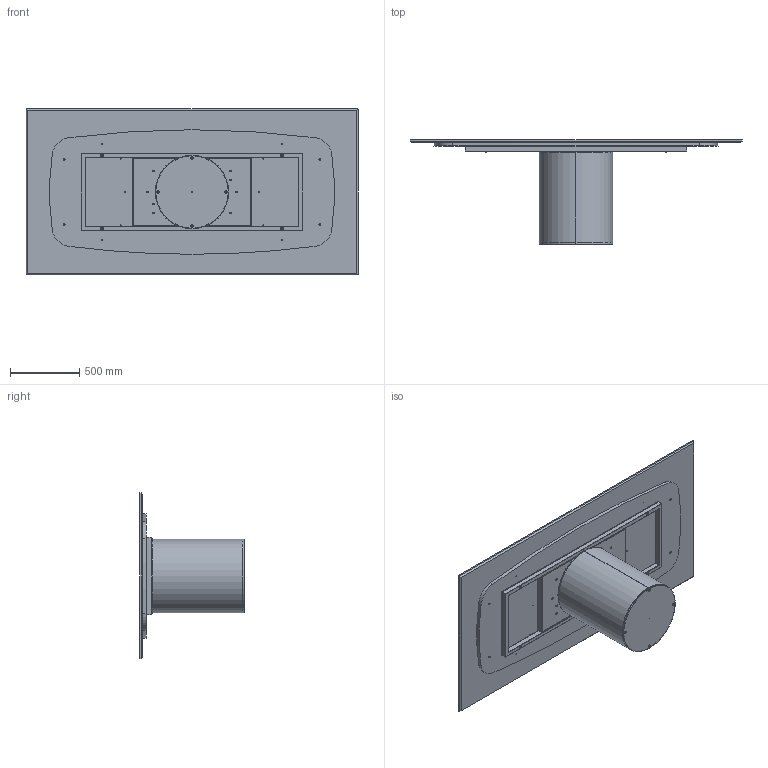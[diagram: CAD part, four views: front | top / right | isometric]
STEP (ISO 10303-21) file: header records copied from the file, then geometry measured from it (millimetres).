
FILE_DESCRIPTION (( 'STEP AP203' ), '1' );
FILE_NAME ('CI23M.STEP', '2024-08-08T07:23:41', ( '' ), ( '' ), 'SwSTEP 2.0', 'SolidWorks 2022', '' );
FILE_SCHEMA (( 'CONFIG_CONTROL_DESIGN' ));
Length unit declared in the file: millimetre
Products named in the file (15): M8xXXmm_M8x14mm; C2B000000_01-00-struttura cilindro D.530mm; C2B000000_02-01-ZAVORRA IN FERRO D.530mm; COLLO TELAIO UNIVERSALE TTAV01 CON FERRAMENTA_MTG TOP LEGNO-MARMO-KING; M8xXXmm_M8x55mm; TTAV01-05-TELAIO UNIVERSALE X TAVOLI 180 240cm; TTAV01_02-05-VASSOIO IRRIGIDIMENTO TELAIO UNIVERSALE; CI23M; M8xXXmm_hex_M8X20mm; M2X-00-Piani rettangolari marmo_2400*1200; M2XMXX-00-Piani rettangolari in marmo_2400x1200; C2B000000-03-CILINDRO BASE D.530mm_Normale; TRUXXXXXX-00-NOBILITATO GR CON SUPP TRUCIOLARE SP. 25_TRU00007_2100x900; TTAV01_01-05-TELAIO UNIVERSALE X TAVOLI 180 240cm; rondella M8_8X24
Assembly tree (30 placements, depth 4):
  CI23M
    C2B000000-03-CILINDRO BASE D.530mm_Normale
      C2B000000_01-00-struttura cilindro D.530mm
      C2B000000_02-01-ZAVORRA IN FERRO D.530mm
      M8xXXmm_hex_M8X20mm  x4
    COLLO TELAIO UNIVERSALE TTAV01 CON FERRAMENTA_MTG TOP LEGNO-MARMO-KING
      TTAV01-05-TELAIO UNIVERSALE X TAVOLI 180 240cm
        TTAV01_02-05-VASSOIO IRRIGIDIMENTO TELAIO UNIVERSALE
        TTAV01_01-05-TELAIO UNIVERSALE X TAVOLI 180 240cm
      rondella M8_8X24  x4
      M8xXXmm_M8x55mm  x4
    rondella M8_8X24  x4
    M8xXXmm_M8x14mm  x4
    M2XMXX-00-Piani rettangolari in marmo_2400x1200
      M2X-00-Piani rettangolari marmo_2400*1200
      TRUXXXXXX-00-NOBILITATO GR CON SUPP TRUCIOLARE SP. 25_TRU00007_2100x900
Bounding box: 2400 x 755 x 1200 mm (x, y, z)
Volume: 108942465.6 mm3; surface area: 14560572.4 mm2
Topology: 29 solids, 29 shells, 979 faces, 2273 edges, 1311 vertices
Faces by surface type: plane 366, cylinder 321, cone 166, torus 104, sphere 22
Entity records: 19140 total; most frequent: DIRECTION 3143, CARTESIAN_POINT 3031, ORIENTED_EDGE 2762, EDGE_CURVE 1381, AXIS2_PLACEMENT_3D 1198, VERTEX_POINT 850, LINE 747, VECTOR 747
